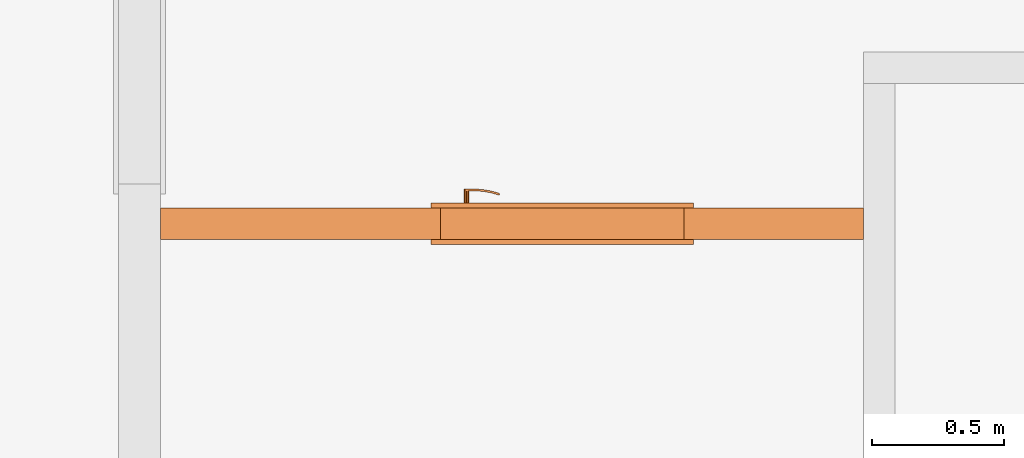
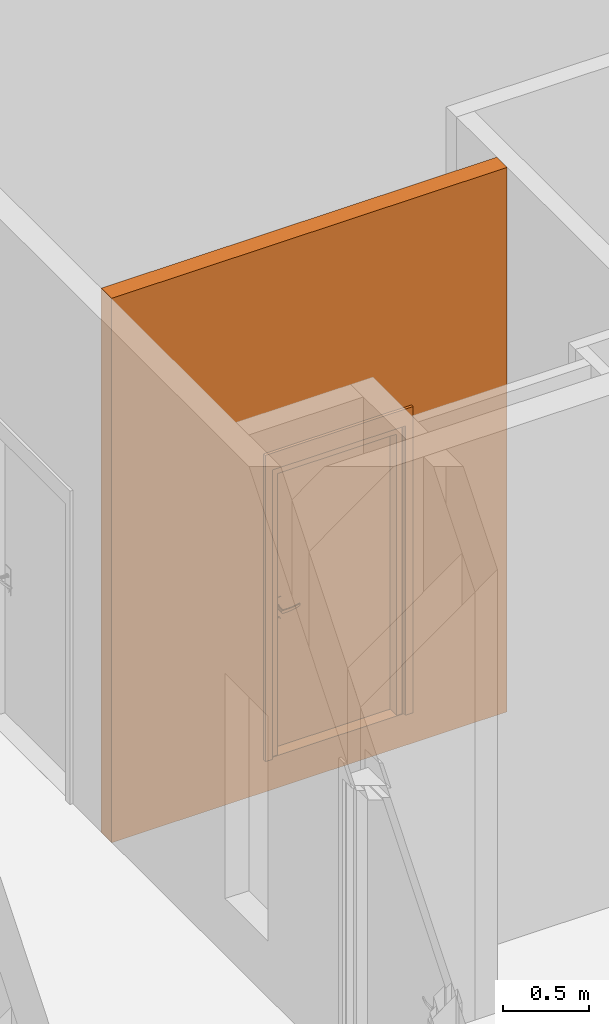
# One storey, part 9 of 46: 2 proxies, 1 opening.
"""IFC2X3 building model written with IfcOpenShell, lengths in millimetres."""

from ifc_helpers import new_model, entity, si_unit, converted_unit, derived_unit, money_unit, direction, frame, origin_with_axes, origin_2d_with_axis, place, context, subcontext, project, spatial, rectangle, extrude, open_shell, faceted_brep, surface_model, source, transform, mapped, material, type_object, element, fill, save


model = new_model("IFC2X3")

# Units and contexts
model_context = context("Model", 3, precision=0.01, world=origin_with_axes(), true_north=direction((0.34421633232, 0.938890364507)))
body_context = subcontext(model_context, "Body", "Model", "MODEL_VIEW")
ifc_project = project(units=[si_unit("LENGTHUNIT", "METRE", prefix="MILLI"), si_unit("AREAUNIT", "SQUARE_METRE"), si_unit("VOLUMEUNIT", "CUBIC_METRE"), converted_unit("PLANEANGLEUNIT", "DEGREE", entity("IfcPlaneAngleMeasure", 0.0174532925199), si_unit("PLANEANGLEUNIT", "RADIAN"), dimensions=[0, 0, 0, 0, 0, 0, 0]), si_unit("SOLIDANGLEUNIT", "STERADIAN"), money_unit("USD"), converted_unit("TIMEUNIT", "Year", entity("IfcTimeMeasure", 31556926.0), si_unit("TIMEUNIT", "SECOND"), dimensions=[0, 0, 1, 0, 0, 0, 0]), si_unit("MASSUNIT", "GRAM", prefix="KILO"), si_unit("THERMODYNAMICTEMPERATUREUNIT", "DEGREE_CELSIUS"), si_unit("LUMINOUSINTENSITYUNIT", "LUMEN"), si_unit("ENERGYUNIT", "JOULE", prefix="MEGA"), derived_unit("THERMALCONDUCTANCEUNIT", [(si_unit("POWERUNIT", "WATT"), 1), (si_unit("LENGTHUNIT", "METRE"), -1), (si_unit("THERMODYNAMICTEMPERATUREUNIT", "KELVIN"), -1)]), derived_unit("SPECIFICHEATCAPACITYUNIT", [(si_unit("ENERGYUNIT", "JOULE"), 1), (si_unit("MASSUNIT", "GRAM", prefix="KILO"), -1), (si_unit("THERMODYNAMICTEMPERATUREUNIT", "KELVIN"), -1)]), derived_unit("MASSDENSITYUNIT", [(si_unit("MASSUNIT", "GRAM", prefix="KILO"), 1), (si_unit("VOLUMEUNIT", "CUBIC_METRE"), -1)])], contexts=[model_context])

# Site, building, storey
site_placement = place(None, origin_with_axes())
site = spatial("IfcSite", under=ifc_project, at=site_placement, Name="USTRONIE MORSKIE", CompositionType="ELEMENT")
building_placement = place(site_placement, origin_with_axes())
building = spatial("IfcBuilding", under=site, at=building_placement, Name="Budynek", CompositionType="ELEMENT")
storey_placement = place(building_placement, origin_with_axes())
storey = spatial("IfcBuildingStorey", under=building, at=storey_placement, Name="PARTER", CompositionType="ELEMENT", Elevation=0.0)

# Proxies, opening
ifc_material = material(Name="Bloczki silikatowe")
building_element_proxy_type_1 = type_object("IfcBuildingElementProxyType", Name="Bloczki silikatowe 120", PredefinedType="NOTDEFINED")
proxy_1_placement = place(storey_placement, frame((362417.920919, 717361.219701, -230.0), z_axis=(0.0, 0.0, 1.0), x_axis=(-1.0, 0.0, 0.0)))
proxy_1 = element("IfcBuildingElementProxy", 1, at=proxy_1_placement, inside=storey, type_object=building_element_proxy_type_1, material=ifc_material, Name="SW-04", context=body_context, shape_type="Brep", body=[
    faceted_brep([(2719.99735394, -59.9999999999, 3870.0), (2719.99735394, 59.9999999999, 3870.0), (60.0, 59.9999999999, 3870.0), (60.0, -59.9999999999, 3870.0), (2719.99735394, -59.9999999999, 0.0), (2719.99735394, 59.9999999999, 0.0), (60.0, 59.9999999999, 0.0), (60.0, -59.9999999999, 0.0)], [[[0, 1, 2, 3]], [[1, 0, 4, 5]], [[1, 5, 6, 2]], [[7, 3, 2, 6]], [[4, 0, 3, 7]], [[5, 4, 7, 6]]]),
])
opening_placement = place(proxy_1_placement, frame((1200.0, 0.0, 230.0), z_axis=(0.0, 0.0, 1.0), x_axis=(1.0, 0.0, 0.0)))
opening = element("IfcOpeningElement", 2, at=opening_placement, cuts=proxy_1, Name="Dw.4", context=body_context, shape_type="SweptSolid", body=[
    extrude(rectangle(XDim=920.0, YDim=2070.0, at=origin_2d_with_axis()), frame((0.0, 120.0, 1035.0), z_axis=(0.0, -1.0, 0.0), x_axis=(-1.0, 0.0, 0.0)), (0.0, 0.0, 1.0), 360.0),
    extrude(rectangle(XDim=994.0, YDim=2177.0, at=origin_2d_with_axis()), frame((0.0, 60.0000000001, 1088.5), z_axis=(0.0, -1.0, 0.0), x_axis=(-1.0, 0.0, 0.0)), (0.0, 0.0, -1.0), 120.0),
    extrude(rectangle(XDim=994.0, YDim=2177.0, at=origin_2d_with_axis()), frame((0.0, -59.9999999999, 1088.5), z_axis=(0.0, 1.0, 0.0), x_axis=(-1.0, 0.0, 0.0)), (0.0, 0.0, -1.0), 120.0),
])
building_element_proxy_type_2 = type_object("IfcBuildingElementProxyType", Name="Drzwi 23", PredefinedType="NOTDEFINED")
shared_shape = source(origin_with_axes(), body_context, "Body", "SurfaceModel", [
    faceted_brep([(-460.0, -115.0, 0.0), (-435.0, -115.0, 0.0), (-435.0, -120.0, 0.0), (-460.0, -120.0, 0.0), (-460.0, -115.0, 2070.0), (-435.0, -115.0, 2045.0), (-435.0, -120.0, 2045.0), (-460.0, -120.0, 2070.0)], [[[0, 1, 2, 3]], [[0, 4, 5, 1]], [[1, 5, 6, 2]], [[3, 2, 6, 7]], [[4, 0, 3, 7]], [[5, 4, 7, 6]]]),
    faceted_brep([(460.0, -115.0, 2070.0), (435.0, -115.0, 2045.0), (435.0, -120.0, 2045.0), (460.0, -120.0, 2070.0), (460.0, -115.0, 0.0), (435.0, -115.0, 0.0), (435.0, -120.0, 0.0), (460.0, -120.0, 0.0)], [[[0, 1, 2, 3]], [[0, 4, 5, 1]], [[1, 5, 6, 2]], [[3, 2, 6, 7]], [[4, 0, 3, 7]], [[5, 4, 7, 6]]]),
    faceted_brep([(-435.0, -115.0, 2045.0), (435.0, -115.0, 2045.0), (435.0, -120.0, 2045.0), (-435.0, -120.0, 2045.0), (-460.0, -115.0, 2070.0), (460.0, -115.0, 2070.0), (460.0, -120.0, 2070.0), (-460.0, -120.0, 2070.0)], [[[0, 1, 2, 3]], [[0, 4, 5, 1]], [[1, 5, 6, 2]], [[3, 2, 6, 7]], [[4, 0, 3, 7]], [[5, 4, 7, 6]]]),
    faceted_brep([(-497.0, -139.0, 0.0), (-497.0, -120.0, 0.0), (-447.0, -120.0, 0.0), (-447.0, -139.0, 0.0), (-497.0, -139.0, 2177.0), (-497.0, -120.0, 2177.0), (-447.0, -120.0, 2057.0), (-447.0, -139.0, 2057.0)], [[[0, 1, 2, 3]], [[4, 5, 1, 0]], [[1, 5, 6, 2]], [[3, 2, 6, 7]], [[0, 3, 7, 4]], [[7, 6, 5, 4]]]),
    faceted_brep([(497.0, -139.0, 2177.0), (497.0, -120.0, 2177.0), (447.0, -120.0, 2057.0), (447.0, -139.0, 2057.0), (497.0, -139.0, 0.0), (497.0, -120.0, 0.0), (447.0, -120.0, 0.0), (447.0, -139.0, 0.0)], [[[0, 1, 2, 3]], [[4, 5, 1, 0]], [[1, 5, 6, 2]], [[3, 2, 6, 7]], [[0, 3, 7, 4]], [[7, 6, 5, 4]]]),
    faceted_brep([(-497.0, -139.0, 2177.0), (-497.0, -120.0, 2177.0), (-447.0, -120.0, 2057.0), (-447.0, -139.0, 2057.0), (497.0, -139.0, 2177.0), (497.0, -120.0, 2177.0), (447.0, -120.0, 2057.0), (447.0, -139.0, 2057.0)], [[[0, 1, 2, 3]], [[4, 5, 1, 0]], [[1, 5, 6, 2]], [[3, 2, 6, 7]], [[0, 3, 7, 4]], [[7, 6, 5, 4]]]),
    faceted_brep([(-497.0, 19.0, 0.0), (-447.0, 19.0, 0.0), (-447.0, 0.0, 0.0), (-497.0, 0.0, 0.0), (-497.0, 19.0, 2177.0), (-447.0, 19.0, 2057.0), (-447.0, 0.0, 2057.0), (-497.0, 0.0, 2177.0)], [[[0, 1, 2, 3]], [[0, 4, 5, 1]], [[1, 5, 6, 2]], [[3, 2, 6, 7]], [[4, 0, 3, 7]], [[5, 4, 7, 6]]]),
    faceted_brep([(497.0, 19.0, 2177.0), (447.0, 19.0, 2057.0), (447.0, 0.0, 2057.0), (497.0, 0.0, 2177.0), (497.0, 19.0, 0.0), (447.0, 19.0, 0.0), (447.0, 0.0, 0.0), (497.0, 0.0, 0.0)], [[[0, 1, 2, 3]], [[0, 4, 5, 1]], [[1, 5, 6, 2]], [[3, 2, 6, 7]], [[4, 0, 3, 7]], [[5, 4, 7, 6]]]),
    faceted_brep([(-497.0, 19.0, 2177.0), (-447.0, 19.0, 2057.0), (-447.0, 0.0, 2057.0), (-497.0, 0.0, 2177.0), (497.0, 19.0, 2177.0), (447.0, 19.0, 2057.0), (447.0, 0.0, 2057.0), (497.0, 0.0, 2177.0)], [[[0, 1, 2, 3]], [[0, 4, 5, 1]], [[1, 5, 6, 2]], [[3, 2, 6, 7]], [[4, 0, 3, 7]], [[5, 4, 7, 6]]]),
    faceted_brep([(-400.0, -40.0, 0.0), (-400.0, -40.0, 2000.0), (-400.0, -115.0, 2000.0), (-400.0, -115.0, 0.0), (-412.0, -40.0, 2000.0), (-412.0, -40.0, 0.0), (-412.0, 0.0, 2000.0), (-460.0, 0.0, 2000.0), (-460.0, -115.0, 2000.0), (-460.0, -115.0, 0.0), (-460.0, 0.0, 0.0), (-412.0, 0.0, 0.0)], [[[0, 1, 2, 3]], [[4, 1, 0, 5]], [[4, 6, 7, 8, 2, 1]], [[3, 2, 8, 9]], [[5, 0, 3, 9, 10, 11]], [[6, 4, 5, 11]], [[6, 11, 10, 7]], [[10, 9, 8, 7]]]),
    faceted_brep([(412.0, -40.0, 2000.0), (400.0, -40.0, 2000.0), (400.0, -115.0, 2000.0), (460.0, -115.0, 2000.0), (460.0, 0.0, 2000.0), (412.0, 0.0, 2000.0), (412.0, -40.0, 0.0), (400.0, -40.0, 0.0), (400.0, -115.0, 0.0), (460.0, -115.0, 0.0), (460.0, 0.0, 0.0), (412.0, 0.0, 0.0)], [[[0, 1, 2, 3, 4, 5]], [[1, 0, 6, 7]], [[1, 7, 8, 2]], [[3, 2, 8, 9]], [[4, 3, 9, 10]], [[11, 5, 4, 10]], [[0, 5, 11, 6]], [[6, 11, 10, 9, 8, 7]]]),
    faceted_brep([(-412.0, 0.0, 2012.0), (-412.0, 0.0, 2000.0), (-460.0, 0.0, 2000.0), (-460.0, 0.0, 2070.0), (460.0, 0.0, 2070.0), (460.0, 0.0, 2000.0), (412.0, 0.0, 2000.0), (412.0, 0.0, 2012.0), (-412.0, -40.0, 2012.0), (-412.0, -40.0, 2000.0), (-400.0, -40.0, 2000.0), (-400.0, -115.0, 2000.0), (-460.0, -115.0, 2000.0), (-460.0, -115.0, 2070.0), (460.0, -115.0, 2070.0), (460.0, -115.0, 2000.0), (412.0, -40.0, 2000.0), (400.0, -115.0, 2000.0), (400.0, -40.0, 2000.0), (412.0, -40.0, 2012.0)], [[[0, 1, 2, 3, 4, 5, 6, 7]], [[1, 0, 8, 9]], [[9, 10, 11, 12, 2, 1]], [[2, 12, 13, 3]], [[3, 13, 14, 4]], [[4, 14, 15, 5]], [[16, 6, 5, 15, 17, 18]], [[7, 6, 16, 19]], [[0, 7, 19, 8]], [[16, 18, 10, 9, 8, 19]], [[10, 18, 17, 11]], [[17, 15, 14, 13, 12, 11]]]),
    faceted_brep([(-390.5, -40.0, 1060.0), (-390.5, -43.0, 1060.0), (-333.5, -43.0, 1060.0), (-333.5, -40.0, 1060.0), (-390.5, -40.0, 870.0), (-390.5, -43.0, 870.0), (-333.5, -43.0, 870.0), (-333.5, -40.0, 870.0)], [[[0, 1, 2, 3]], [[4, 5, 1, 0]], [[1, 5, 6, 2]], [[3, 2, 6, 7]], [[0, 3, 7, 4]], [[7, 6, 5, 4]]]),
    faceted_brep([(-362.0, -104.0, 990.0), (-362.0, -111.0, 990.0), (-367.0, -111.0, 991.339745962), (-367.0, -104.0, 991.339745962), (-337.0, -104.0, 990.0), (-337.0, -111.0, 990.0), (-337.0, -111.0, 1010.0), (-362.0, -111.0, 1010.0), (-367.0, -111.0, 1008.66025404), (-370.660254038, -111.0, 1005.0), (-372.0, -111.0, 1000.0), (-370.660254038, -111.0, 995.0), (-370.660254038, -104.0, 995.0), (-372.0, -104.0, 1000.0), (-370.660254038, -104.0, 1005.0), (-367.0, -104.0, 1008.66025404), (-362.0, -104.0, 1010.0), (-337.0, -104.0, 1010.0)], [[[0, 1, 2, 3]], [[4, 5, 1, 0]], [[1, 5, 6, 7, 8, 9, 10, 11, 2]], [[3, 2, 11, 12]], [[0, 3, 12, 13, 14, 15, 16, 17, 4]], [[17, 6, 5, 4]], [[16, 7, 6, 17]], [[15, 8, 7, 16]], [[14, 9, 8, 15]], [[13, 10, 9, 14]], [[12, 11, 10, 13]]]),
    surface_model("IfcShellBasedSurfaceModel", [(-337.0, -104.0, 1010.0), (-323.596090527, -111.0, 1009.60730092), (-323.901717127, -104.0, 1009.60730092), (-337.0, -111.0, 1010.0), (-296.890283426, -108.663544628, 1008.82190275), (-323.901717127, -104.0, 990.392699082), (-337.0, -104.0, 990.0), (-337.0, -111.0, 990.0), (-323.596090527, -111.0, 990.392699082), (-296.890283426, -108.663544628, 991.178097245), (-297.804837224, -101.716818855, 1008.82190275), (-297.804837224, -101.716818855, 991.178097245), (-270.489735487, -104.008415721, 991.963495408), (-270.489735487, -104.008415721, 1008.03650459), (-272.006256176, -97.1678329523, 1008.03650459), (-272.006256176, -97.1678329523, 991.963495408), (-244.59537082, -97.0700416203, 992.748893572), (-244.59537082, -97.0700416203, 1007.25110643), (-246.702316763, -90.3876628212, 1007.25110643), (-246.702316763, -90.3876628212, 992.748893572), (-236.538795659, -94.1376880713, 993.0), (-236.538795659, -94.1376880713, 1007.0), (-238.829442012, -87.5221707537, 1007.0), (-238.829442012, -87.5221707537, 993.0)], [open_shell([[[0, 1, 2]], [[0, 3, 1]], [[2, 1, 4]], [[0, 2, 5, 6]], [[3, 7, 8, 1]], [[1, 8, 9, 4]], [[2, 4, 10]], [[2, 10, 11, 5]], [[5, 7, 6]], [[5, 8, 7]], [[11, 9, 8]], [[4, 9, 12, 13]], [[10, 4, 13]], [[10, 14, 15, 11]], [[11, 8, 5]], [[15, 9, 11]], [[15, 12, 9]], [[13, 12, 16, 17]], [[10, 13, 14]], [[14, 18, 19, 15]], [[19, 12, 15]], [[19, 16, 12]], [[17, 16, 20, 21]], [[14, 13, 17]], [[14, 17, 18]], [[18, 22, 23, 19]], [[23, 16, 19]], [[23, 20, 16]], [[22, 21, 20, 23]], [[18, 17, 21]], [[18, 21, 22]]])]),
    faceted_brep([(-351.607695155, -53.0, 994.0), (-350.741669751, -43.0, 993.5), (-349.0, -43.0, 1000.0), (-350.0, -53.0, 1000.0), (-356.0, -53.0, 989.607695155), (-355.5, -43.0, 988.741669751), (-362.0, -43.0, 987.0), (-368.5, -43.0, 988.741669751), (-373.258330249, -43.0, 993.5), (-375.0, -43.0, 1000.0), (-373.258330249, -43.0, 1006.5), (-368.5, -43.0, 1011.25833025), (-362.0, -43.0, 1013.0), (-355.5, -43.0, 1011.25833025), (-350.741669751, -43.0, 1006.5), (-351.607695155, -53.0, 1006.0), (-356.0, -53.0, 1010.39230485), (-362.0, -53.0, 1012.0), (-368.0, -53.0, 1010.39230485), (-372.392304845, -53.0, 1006.0), (-374.0, -53.0, 1000.0), (-372.392304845, -53.0, 994.0), (-368.0, -53.0, 989.607695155), (-362.0, -53.0, 988.0)], [[[0, 1, 2, 3]], [[4, 5, 1, 0]], [[2, 1, 5, 6, 7, 8, 9, 10, 11, 12, 13, 14]], [[3, 2, 14, 15]], [[3, 15, 16, 17, 18, 19, 20, 21, 22, 23, 4, 0]], [[23, 6, 5, 4]], [[22, 7, 6, 23]], [[21, 8, 7, 22]], [[20, 9, 8, 21]], [[19, 10, 9, 20]], [[18, 11, 10, 19]], [[17, 12, 11, 18]], [[16, 13, 12, 17]], [[15, 14, 13, 16]]]),
    faceted_brep([(-344.679491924, -47.0, 895.0), (-342.947441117, -43.0, 894.0), (-340.0, -43.0, 905.0), (-342.0, -47.0, 905.0), (-352.0, -47.0, 887.679491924), (-351.0, -43.0, 885.947441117), (-362.0, -43.0, 883.0), (-373.0, -43.0, 885.947441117), (-381.052558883, -43.0, 894.0), (-384.0, -43.0, 905.0), (-381.052558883, -43.0, 916.0), (-373.0, -43.0, 924.052558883), (-362.0, -43.0, 927.0), (-351.0, -43.0, 924.052558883), (-342.947441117, -43.0, 916.0), (-344.679491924, -47.0, 915.0), (-352.0, -47.0, 922.320508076), (-362.0, -47.0, 925.0), (-372.0, -47.0, 922.320508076), (-379.320508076, -47.0, 915.0), (-382.0, -47.0, 905.0), (-379.320508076, -47.0, 895.0), (-372.0, -47.0, 887.679491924), (-362.0, -47.0, 885.0)], [[[0, 1, 2, 3]], [[4, 5, 1, 0]], [[2, 1, 5, 6, 7, 8, 9, 10, 11, 12, 13, 14]], [[3, 2, 14, 15]], [[3, 15, 16, 17, 18, 19, 20, 21, 22, 23, 4, 0]], [[23, 6, 5, 4]], [[22, 7, 6, 23]], [[21, 8, 7, 22]], [[20, 9, 8, 21]], [[19, 10, 9, 20]], [[18, 11, 10, 19]], [[17, 12, 11, 18]], [[16, 13, 12, 17]], [[15, 14, 13, 16]]]),
    faceted_brep([(-357.050252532, -49.0, 909.050252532), (-356.343145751, -47.0, 908.343145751), (-354.0, -47.0, 914.0), (-355.0, -49.0, 914.0), (-362.0, -49.0, 907.0), (-362.0, -47.0, 906.0), (-367.656854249, -47.0, 908.343145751), (-370.0, -47.0, 914.0), (-367.656854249, -47.0, 919.656854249), (-362.0, -47.0, 922.0), (-356.343145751, -47.0, 919.656854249), (-357.050252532, -49.0, 918.949747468), (-362.0, -49.0, 921.0), (-366.949747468, -49.0, 918.949747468), (-369.0, -49.0, 914.0), (-366.949747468, -49.0, 909.050252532)], [[[0, 1, 2, 3]], [[4, 5, 1, 0]], [[2, 1, 5, 6, 7, 8, 9, 10]], [[3, 2, 10, 11]], [[3, 11, 12, 13, 14, 15, 4, 0]], [[15, 6, 5, 4]], [[14, 7, 6, 15]], [[13, 8, 7, 14]], [[12, 9, 8, 13]], [[11, 10, 9, 12]]]),
    faceted_brep([(-362.0, -53.0, 1010.0), (-362.0, -104.0, 1010.0), (-357.0, -104.0, 1008.66025404), (-357.0, -53.0, 1008.66025404), (-367.0, -53.0, 1008.66025404), (-367.0, -104.0, 1008.66025404), (-370.660254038, -104.0, 1005.0), (-372.0, -104.0, 1000.0), (-370.660254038, -104.0, 995.0), (-367.0, -104.0, 991.339745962), (-362.0, -104.0, 990.0), (-357.0, -104.0, 991.339745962), (-353.339745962, -104.0, 995.0), (-352.0, -104.0, 1000.0), (-353.339745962, -104.0, 1005.0), (-353.339745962, -53.0, 1005.0), (-352.0, -53.0, 1000.0), (-353.339745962, -53.0, 995.0), (-357.0, -53.0, 991.339745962), (-362.0, -53.0, 990.0), (-367.0, -53.0, 991.339745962), (-370.660254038, -53.0, 995.0), (-372.0, -53.0, 1000.0), (-370.660254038, -53.0, 1005.0)], [[[0, 1, 2, 3]], [[4, 5, 1, 0]], [[1, 5, 6, 7, 8, 9, 10, 11, 12, 13, 14, 2]], [[3, 2, 14, 15]], [[0, 3, 15, 16, 17, 18, 19, 20, 21, 22, 23, 4]], [[23, 6, 5, 4]], [[22, 7, 6, 23]], [[21, 8, 7, 22]], [[20, 9, 8, 21]], [[19, 10, 9, 20]], [[18, 11, 10, 19]], [[17, 12, 11, 18]], [[16, 13, 12, 17]], [[15, 14, 13, 16]]]),
    faceted_brep([(-390.5, 0.0, 1060.0), (-333.5, 0.0, 1060.0), (-333.5, 3.0, 1060.0), (-390.5, 3.0, 1060.0), (-390.5, 0.0, 870.0), (-333.5, 0.0, 870.0), (-333.5, 3.0, 870.0), (-390.5, 3.0, 870.0)], [[[0, 1, 2, 3]], [[0, 4, 5, 1]], [[1, 5, 6, 2]], [[3, 2, 6, 7]], [[4, 0, 3, 7]], [[5, 4, 7, 6]]]),
    faceted_brep([(-362.0, 64.0, 990.0), (-367.0, 64.0, 991.339745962), (-367.0, 71.0, 991.339745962), (-362.0, 71.0, 990.0), (-337.0, 64.0, 990.0), (-337.0, 64.0, 1010.0), (-362.0, 64.0, 1010.0), (-367.0, 64.0, 1008.66025404), (-370.660254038, 64.0, 1005.0), (-372.0, 64.0, 1000.0), (-370.660254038, 64.0, 995.0), (-370.660254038, 71.0, 995.0), (-372.0, 71.0, 1000.0), (-370.660254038, 71.0, 1005.0), (-367.0, 71.0, 1008.66025404), (-362.0, 71.0, 1010.0), (-337.0, 71.0, 1010.0), (-337.0, 71.0, 990.0)], [[[0, 1, 2, 3]], [[0, 4, 5, 6, 7, 8, 9, 10, 1]], [[1, 10, 11, 2]], [[3, 2, 11, 12, 13, 14, 15, 16, 17]], [[4, 0, 3, 17]], [[5, 4, 17, 16]], [[6, 5, 16, 15]], [[7, 6, 15, 14]], [[8, 7, 14, 13]], [[9, 8, 13, 12]], [[10, 9, 12, 11]]]),
    surface_model("IfcShellBasedSurfaceModel", [(-337.0, 64.0, 1010.0), (-323.901717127, 64.0, 1009.60730092), (-323.596090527, 71.0, 1009.60730092), (-337.0, 64.0, 990.0), (-323.901717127, 64.0, 990.392699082), (-296.890283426, 68.6635446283, 1008.82190275), (-337.0, 71.0, 1010.0), (-337.0, 71.0, 990.0), (-297.804837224, 61.716818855, 991.178097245), (-297.804837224, 61.716818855, 1008.82190275), (-296.890283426, 68.6635446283, 991.178097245), (-323.596090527, 71.0, 990.392699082), (-272.006256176, 57.1678329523, 991.963495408), (-272.006256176, 57.1678329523, 1008.03650459), (-270.489735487, 64.0084157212, 1008.03650459), (-270.489735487, 64.0084157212, 991.963495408), (-246.702316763, 50.3876628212, 992.748893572), (-246.702316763, 50.3876628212, 1007.25110643), (-244.59537082, 57.0700416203, 1007.25110643), (-244.59537082, 57.0700416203, 992.748893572), (-238.829442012, 47.5221707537, 993.0), (-238.829442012, 47.5221707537, 1007.0), (-236.538795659, 54.1376880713, 1007.0), (-236.538795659, 54.1376880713, 993.0)], [open_shell([[[0, 1, 2]], [[0, 3, 4, 1]], [[1, 5, 2]], [[0, 2, 6]], [[4, 3, 7]], [[1, 4, 8, 9]], [[1, 9, 5]], [[2, 5, 10, 11]], [[6, 2, 11, 7]], [[4, 7, 11]], [[8, 4, 11]], [[9, 8, 12, 13]], [[9, 14, 5]], [[5, 14, 15, 10]], [[8, 11, 10]], [[12, 8, 10]], [[13, 12, 16, 17]], [[9, 13, 14]], [[14, 18, 19, 15]], [[12, 10, 15]], [[16, 12, 15]], [[17, 16, 20, 21]], [[13, 17, 18]], [[13, 18, 14]], [[18, 22, 23, 19]], [[16, 15, 19]], [[20, 16, 19]], [[21, 20, 23, 22]], [[17, 21, 22]], [[17, 22, 18]], [[20, 19, 23]]])]),
    faceted_brep([(-351.607695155, 13.0, 994.0), (-350.0, 13.0, 1000.0), (-349.0, 3.0, 1000.0), (-350.741669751, 3.0, 993.5), (-356.0, 13.0, 989.607695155), (-362.0, 13.0, 988.0), (-368.0, 13.0, 989.607695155), (-372.392304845, 13.0, 994.0), (-374.0, 13.0, 1000.0), (-372.392304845, 13.0, 1006.0), (-368.0, 13.0, 1010.39230485), (-362.0, 13.0, 1012.0), (-356.0, 13.0, 1010.39230485), (-351.607695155, 13.0, 1006.0), (-350.741669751, 3.0, 1006.5), (-355.5, 3.0, 1011.25833025), (-362.0, 3.0, 1013.0), (-368.5, 3.0, 1011.25833025), (-373.258330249, 3.0, 1006.5), (-375.0, 3.0, 1000.0), (-373.258330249, 3.0, 993.5), (-368.5, 3.0, 988.741669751), (-362.0, 3.0, 987.0), (-355.5, 3.0, 988.741669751)], [[[0, 1, 2, 3]], [[1, 0, 4, 5, 6, 7, 8, 9, 10, 11, 12, 13]], [[1, 13, 14, 2]], [[2, 14, 15, 16, 17, 18, 19, 20, 21, 22, 23, 3]], [[4, 0, 3, 23]], [[5, 4, 23, 22]], [[6, 5, 22, 21]], [[7, 6, 21, 20]], [[8, 7, 20, 19]], [[9, 8, 19, 18]], [[10, 9, 18, 17]], [[11, 10, 17, 16]], [[12, 11, 16, 15]], [[13, 12, 15, 14]]]),
    faceted_brep([(-344.679491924, 7.0, 895.0), (-342.0, 7.0, 905.0), (-340.0, 3.0, 905.0), (-342.947441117, 3.0, 894.0), (-352.0, 7.0, 887.679491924), (-362.0, 7.0, 885.0), (-372.0, 7.0, 887.679491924), (-379.320508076, 7.0, 895.0), (-382.0, 7.0, 905.0), (-379.320508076, 7.0, 915.0), (-372.0, 7.0, 922.320508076), (-362.0, 7.0, 925.0), (-352.0, 7.0, 922.320508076), (-344.679491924, 7.0, 915.0), (-342.947441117, 3.0, 916.0), (-351.0, 3.0, 924.052558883), (-362.0, 3.0, 927.0), (-373.0, 3.0, 924.052558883), (-381.052558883, 3.0, 916.0), (-384.0, 3.0, 905.0), (-381.052558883, 3.0, 894.0), (-373.0, 3.0, 885.947441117), (-362.0, 3.0, 883.0), (-351.0, 3.0, 885.947441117)], [[[0, 1, 2, 3]], [[1, 0, 4, 5, 6, 7, 8, 9, 10, 11, 12, 13]], [[1, 13, 14, 2]], [[2, 14, 15, 16, 17, 18, 19, 20, 21, 22, 23, 3]], [[4, 0, 3, 23]], [[5, 4, 23, 22]], [[6, 5, 22, 21]], [[7, 6, 21, 20]], [[8, 7, 20, 19]], [[9, 8, 19, 18]], [[10, 9, 18, 17]], [[11, 10, 17, 16]], [[12, 11, 16, 15]], [[13, 12, 15, 14]]]),
    faceted_brep([(-357.050252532, 9.0, 909.050252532), (-355.0, 9.0, 914.0), (-354.0, 7.0, 914.0), (-356.343145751, 7.0, 908.343145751), (-362.0, 9.0, 907.0), (-366.949747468, 9.0, 909.050252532), (-369.0, 9.0, 914.0), (-366.949747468, 9.0, 918.949747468), (-362.0, 9.0, 921.0), (-357.050252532, 9.0, 918.949747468), (-356.343145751, 7.0, 919.656854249), (-362.0, 7.0, 922.0), (-367.656854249, 7.0, 919.656854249), (-370.0, 7.0, 914.0), (-367.656854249, 7.0, 908.343145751), (-362.0, 7.0, 906.0)], [[[0, 1, 2, 3]], [[1, 0, 4, 5, 6, 7, 8, 9]], [[1, 9, 10, 2]], [[2, 10, 11, 12, 13, 14, 15, 3]], [[4, 0, 3, 15]], [[5, 4, 15, 14]], [[6, 5, 14, 13]], [[7, 6, 13, 12]], [[8, 7, 12, 11]], [[9, 8, 11, 10]]]),
    faceted_brep([(-362.0, 13.0, 1010.0), (-357.0, 13.0, 1008.66025404), (-357.0, 64.0, 1008.66025404), (-362.0, 64.0, 1010.0), (-367.0, 13.0, 1008.66025404), (-370.660254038, 13.0, 1005.0), (-372.0, 13.0, 1000.0), (-370.660254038, 13.0, 995.0), (-367.0, 13.0, 991.339745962), (-362.0, 13.0, 990.0), (-357.0, 13.0, 991.339745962), (-353.339745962, 13.0, 995.0), (-352.0, 13.0, 1000.0), (-353.339745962, 13.0, 1005.0), (-353.339745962, 64.0, 1005.0), (-352.0, 64.0, 1000.0), (-353.339745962, 64.0, 995.0), (-357.0, 64.0, 991.339745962), (-362.0, 64.0, 990.0), (-367.0, 64.0, 991.339745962), (-370.660254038, 64.0, 995.0), (-372.0, 64.0, 1000.0), (-370.660254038, 64.0, 1005.0), (-367.0, 64.0, 1008.66025404)], [[[0, 1, 2, 3]], [[0, 4, 5, 6, 7, 8, 9, 10, 11, 12, 13, 1]], [[1, 13, 14, 2]], [[3, 2, 14, 15, 16, 17, 18, 19, 20, 21, 22, 23]], [[4, 0, 3, 23]], [[5, 4, 23, 22]], [[6, 5, 22, 21]], [[7, 6, 21, 20]], [[8, 7, 20, 19]], [[9, 8, 19, 18]], [[10, 9, 18, 17]], [[11, 10, 17, 16]], [[12, 11, 16, 15]], [[13, 12, 15, 14]]]),
    faceted_brep([(412.0, 0.0, 0.0), (412.0, -40.0, 0.0), (-412.0, -40.0, 0.0), (-412.0, 0.0, 0.0), (412.0, 0.0, 2012.0), (412.0, -40.0, 2012.0), (-412.0, -40.0, 2012.0), (-412.0, 0.0, 2012.0)], [[[0, 1, 2, 3]], [[4, 5, 1, 0]], [[1, 5, 6, 2]], [[3, 2, 6, 7]], [[0, 3, 7, 4]], [[7, 6, 5, 4]]]),
])
proxy_2_placement = place(opening_placement, frame((400.0, 0.0, 0.0), z_axis=(0.0, 0.0, 1.0), x_axis=(-1.0, 0.0, 0.0)))
proxy_2 = element("IfcBuildingElementProxy", 3, at=proxy_2_placement, inside=storey, type_object=building_element_proxy_type_2, Name="Dw.4", context=body_context, shape_type="MappedRepresentation", body=[
    mapped(shared_shape, transform((400.0, 59.9999999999, 0.0))),
])
fill(opening, proxy_2)

save(model, "model.ifc")
